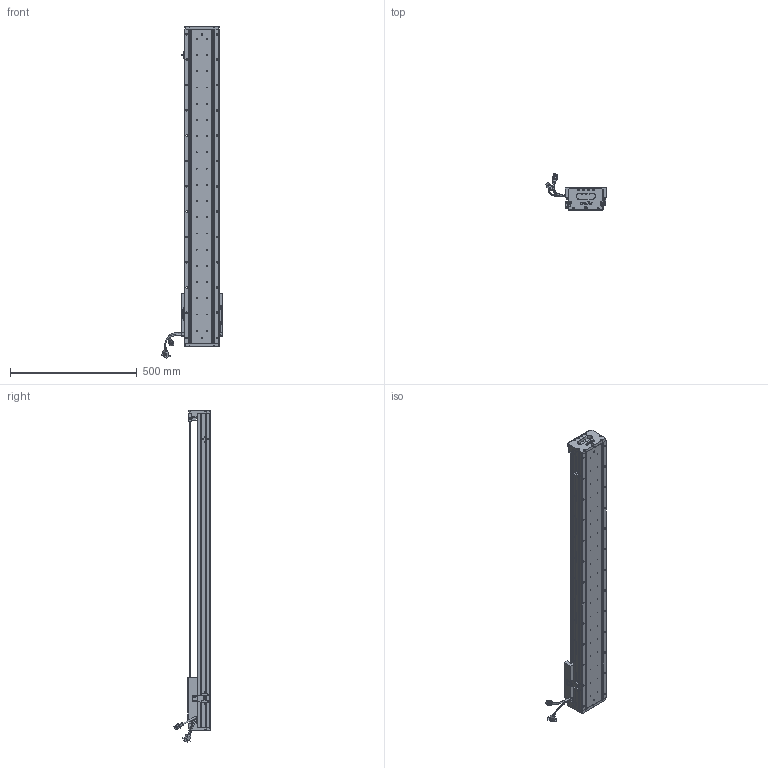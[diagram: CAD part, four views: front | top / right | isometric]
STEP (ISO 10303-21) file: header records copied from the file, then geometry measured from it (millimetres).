
FILE_DESCRIPTION (( 'STEP AP203' ), '1' );
FILE_NAME ('Z2-RY140D-1-L500-B-K.SLDASM_1000.step', '2021-05-17T07:45:47', ( '盈信电脑' ), ( '东莞市道滘镇水果街19号' ), 'SwSTEP 2.0', 'SolidWorks 2016', '' );
FILE_SCHEMA (( 'CONFIG_CONTROL_DESIGN' ));
Length unit declared in the file: millimetre
Products named in the file (36): 140雄赽晤鎢ん堤盄; Z-RY140感应器672光电感应片; Z-RY140詩湍狟揤裔; 140蚥薯蝶輸; 覜茼ん672; LABEL-Part-1; HOLDER0; SCREW-M1.6-1; PSLH080_PSLF2; SCALE-Part-1; SHIELDPLATE; Z-RY140詩湍奻揤裔; PBU_SHEET; HARNESS-Part-2; SCREW-M1.7; SCALE-Part-2; Z2-RY140-L500詩湍100mm遵_1000; SCALE; HARNESS-Part-1; 榋妏寠巭燃_暯_M2_2; SCREW-M1.6-3; SEAL-Part-1; Z2-RY140圉猾敕臏賑輸(21遴); HARNESS; Z2-RY140-L500直线电机模组底座_1000; COVER; 140-Z-臏賑輸盄裔(21遴); SCREW-M1.6; Z2-RY140D-1-L500-B-K.SLDASM_1000; SEAL; COVER-Part-1; Z-140詩湍傷裔啣; 080黍杅芛假蚾釱21遴; LABEL; SCREW-M1.7-1; SCREW-M1.6-2
Assembly tree (41 placements, depth 4):
  Z2-RY140D-1-L500-B-K.SLDASM_1000
    Z2-RY140-L500直线电机模组底座_1000
    Z-RY140感应器672光电感应片
    Z2-RY140圉猾敕臏賑輸(21遴)
    覜茼ん672  x3
    Z2-RY140-L500詩湍100mm遵_1000
    PSLH080_PSLF2
      SCALE
        SCALE-Part-1
        SCALE-Part-2
      HARNESS
        HARNESS-Part-1
        HARNESS-Part-2
      LABEL
        LABEL-Part-1
      COVER
        COVER-Part-1
      SEAL
        SEAL-Part-1
      榋妏寠巭燃_暯_M2_2
      SHIELDPLATE
      SCREW-M1.7
      SCREW-M1.7-1
      PBU_SHEET
      SCREW-M1.6
      SCREW-M1.6-1
      SCREW-M1.6-2
      SCREW-M1.6-3
      HOLDER0
    080黍杅芛假蚾釱21遴
    140-Z-臏賑輸盄裔(21遴)
    Z-140詩湍傷裔啣  x2
    Z-RY140詩湍狟揤裔  x2
    Z-RY140詩湍奻揤裔  x2
    140蚥薯蝶輸  x2
    140雄赽晤鎢ん堤盄
Bounding box: 239.84 x 143.77 x 1310.88 mm (x, y, z)
Volume: 4515691.2 mm3; surface area: 1187764.5 mm2
Topology: 36 solids, 36 shells, 3148 faces, 8368 edges, 5304 vertices
Faces by surface type: cylinder 1534, plane 1184, cone 298, torus 79, bspline 53
Entity records: 94344 total; most frequent: CARTESIAN_POINT 24756, ORIENTED_EDGE 13852, DIRECTION 13440, EDGE_CURVE 6926, AXIS2_PLACEMENT_3D 4956, VERTEX_POINT 4472, VECTOR 3528, LINE 3528
